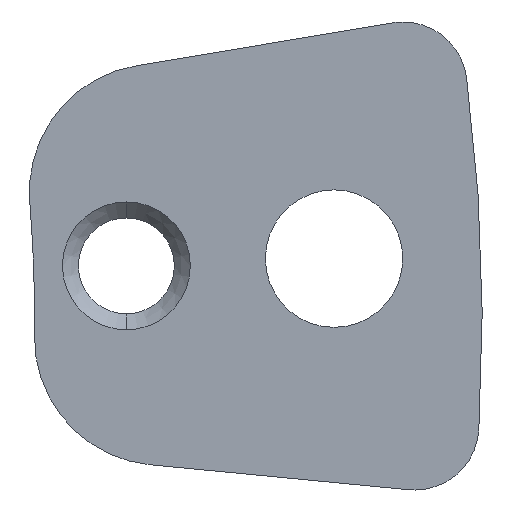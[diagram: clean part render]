
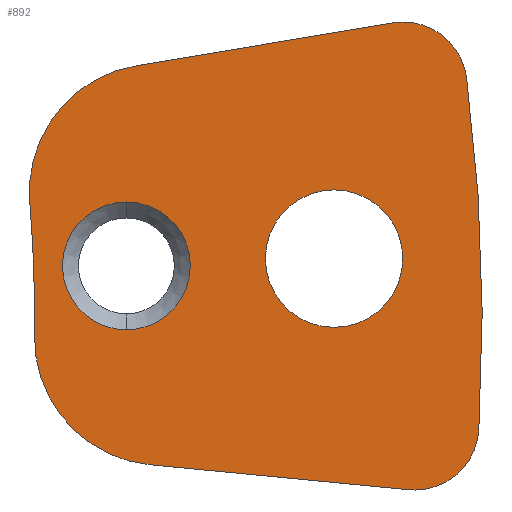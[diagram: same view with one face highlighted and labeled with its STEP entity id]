
A CAD part, left-side view. The second image highlights one B-rep face of the part: STEP entity #892.
In plain terms, the highlighted planar face has unit normal (-1, 0, 0).
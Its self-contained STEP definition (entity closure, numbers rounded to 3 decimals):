
#181=DIRECTION('',(0.,0.995,0.096));
#182=VECTOR('',#181,8.131);
#183=CARTESIAN_POINT('',(-63.,-55.707,-69.364));
#184=LINE('',#183,#182);
#185=CARTESIAN_POINT('',(-63.,-47.996,-64.603));
#186=DIRECTION('',(1.,0.,0.));
#187=DIRECTION('',(0.,0.096,-0.995));
#188=AXIS2_PLACEMENT_3D('',#185,#186,#187);
#190=CARTESIAN_POINT('',(-63.,0.,-64.));
#191=DIRECTION('',(-1.,0.,0.));
#192=DIRECTION('',(0.,-1.,-0.013));
#193=AXIS2_PLACEMENT_3D('',#190,#191,#192);
#195=CARTESIAN_POINT('',(-63.,-47.837,-60.05));
#196=DIRECTION('',(1.,0.,0.));
#197=DIRECTION('',(0.,0.997,-0.082));
#198=AXIS2_PLACEMENT_3D('',#195,#196,#197);
#200=DIRECTION('',(0.,-0.986,0.165));
#201=VECTOR('',#200,8.131);
#202=CARTESIAN_POINT('',(-63.,-47.177,-56.105));
#203=LINE('',#202,#201);
#204=CARTESIAN_POINT('',(-63.,-55.527,-56.736));
#205=DIRECTION('',(1.,0.,0.));
#206=DIRECTION('',(0.,0.165,0.986));
#207=AXIS2_PLACEMENT_3D('',#204,#205,#206);
#209=CARTESIAN_POINT('',(-63.,-55.527,-56.736));
#210=DIRECTION('',(1.,0.,0.));
#211=DIRECTION('',(0.,0.,1.));
#212=AXIS2_PLACEMENT_3D('',#209,#210,#211);
#214=CARTESIAN_POINT('',(-63.,0.,-64.));
#215=DIRECTION('',(1.,0.,0.));
#216=DIRECTION('',(0.,-0.992,0.13));
#217=AXIS2_PLACEMENT_3D('',#214,#215,#216);
#219=CARTESIAN_POINT('',(-63.,-55.898,-67.373));
#220=DIRECTION('',(1.,0.,0.));
#221=DIRECTION('',(0.,-0.998,-0.06));
#222=AXIS2_PLACEMENT_3D('',#219,#220,#221);
#224=CARTESIAN_POINT('',(-63.,-55.898,-67.373));
#225=DIRECTION('',(1.,0.,0.));
#226=DIRECTION('',(0.,0.,-1.));
#227=AXIS2_PLACEMENT_3D('',#224,#225,#226);
#229=CARTESIAN_POINT('',(-63.,-53.367,-62.136));
#230=DIRECTION('',(-1.,0.,0.));
#231=DIRECTION('',(0.,0.,1.));
#232=AXIS2_PLACEMENT_3D('',#229,#230,#231);
#234=CARTESIAN_POINT('',(-63.,-53.367,-62.136));
#235=DIRECTION('',(-1.,0.,0.));
#236=DIRECTION('',(0.,0.,-1.));
#237=AXIS2_PLACEMENT_3D('',#234,#235,#236);
#239=CARTESIAN_POINT('',(-63.,-46.871,-62.363));
#240=DIRECTION('',(1.,0.,0.));
#241=DIRECTION('',(0.,0.,1.));
#242=AXIS2_PLACEMENT_3D('',#239,#240,#241);
#244=CARTESIAN_POINT('',(-63.,-46.871,-62.363));
#245=DIRECTION('',(1.,0.,0.));
#246=DIRECTION('',(0.,0.,-1.));
#247=AXIS2_PLACEMENT_3D('',#244,#245,#246);
#589=CARTESIAN_POINT('',(-63.,-55.707,-69.364));
#590=CARTESIAN_POINT('',(-63.,-47.613,-68.585));
#591=VERTEX_POINT('',#589);
#592=VERTEX_POINT('',#590);
#593=CARTESIAN_POINT('',(-63.,-43.997,-64.553));
#594=VERTEX_POINT('',#593);
#595=CARTESIAN_POINT('',(-63.,-43.851,-60.38));
#596=VERTEX_POINT('',#595);
#597=CARTESIAN_POINT('',(-63.,-47.177,-56.105));
#598=VERTEX_POINT('',#597);
#599=CARTESIAN_POINT('',(-63.,-55.197,-54.763));
#600=VERTEX_POINT('',#599);
#601=CARTESIAN_POINT('',(-63.,-55.527,-54.736));
#602=VERTEX_POINT('',#601);
#603=CARTESIAN_POINT('',(-63.,-57.51,-56.476));
#604=VERTEX_POINT('',#603);
#605=CARTESIAN_POINT('',(-63.,-57.895,-67.494));
#606=VERTEX_POINT('',#605);
#607=CARTESIAN_POINT('',(-63.,-55.898,-69.373));
#608=VERTEX_POINT('',#607);
#609=CARTESIAN_POINT('',(-63.,-53.367,-59.986));
#610=CARTESIAN_POINT('',(-63.,-53.367,-64.286));
#611=VERTEX_POINT('',#609);
#612=VERTEX_POINT('',#610);
#721=CARTESIAN_POINT('',(-63.,-46.871,-60.363));
#722=CARTESIAN_POINT('',(-63.,-46.871,-64.363));
#723=VERTEX_POINT('',#721);
#724=VERTEX_POINT('',#722);
#854=CARTESIAN_POINT('',(-63.,-7.5,-64.));
#855=DIRECTION('',(-1.,0.,0.));
#856=DIRECTION('',(0.,1.,0.));
#857=AXIS2_PLACEMENT_3D('',#854,#855,#856);
#858=PLANE('',#857);
#860=ORIENTED_EDGE('',*,*,#859,.T.);
#862=ORIENTED_EDGE('',*,*,#861,.T.);
#863=ORIENTED_EDGE('',*,*,#844,.T.);
#865=ORIENTED_EDGE('',*,*,#864,.T.);
#867=ORIENTED_EDGE('',*,*,#866,.T.);
#869=ORIENTED_EDGE('',*,*,#868,.T.);
#871=ORIENTED_EDGE('',*,*,#870,.T.);
#873=ORIENTED_EDGE('',*,*,#872,.T.);
#875=ORIENTED_EDGE('',*,*,#874,.T.);
#877=ORIENTED_EDGE('',*,*,#876,.T.);
#878=EDGE_LOOP('',(#860,#862,#863,#865,#867,#869,#871,#873,#875,#877));
#879=FACE_OUTER_BOUND('',#878,.F.);
#881=ORIENTED_EDGE('',*,*,#880,.T.);
#883=ORIENTED_EDGE('',*,*,#882,.T.);
#884=EDGE_LOOP('',(#881,#883));
#885=FACE_BOUND('',#884,.F.);
#887=ORIENTED_EDGE('',*,*,#886,.F.);
#889=ORIENTED_EDGE('',*,*,#888,.F.);
#890=EDGE_LOOP('',(#887,#889));
#891=FACE_BOUND('',#890,.F.);
#892=ADVANCED_FACE('',(#879,#885,#891),#858,.T.);
#189=CIRCLE('',#188,4.);
#194=CIRCLE('',#193,44.);
#199=CIRCLE('',#198,4.);
#208=CIRCLE('',#207,2.);
#213=CIRCLE('',#212,2.);
#218=CIRCLE('',#217,58.);
#223=CIRCLE('',#222,2.);
#228=CIRCLE('',#227,2.);
#233=CIRCLE('',#232,2.15);
#238=CIRCLE('',#237,2.15);
#243=CIRCLE('',#242,2.);
#248=CIRCLE('',#247,2.);
#844=EDGE_CURVE('',#594,#596,#194,.T.);
#859=EDGE_CURVE('',#591,#592,#184,.T.);
#861=EDGE_CURVE('',#592,#594,#189,.T.);
#864=EDGE_CURVE('',#596,#598,#199,.T.);
#866=EDGE_CURVE('',#598,#600,#203,.T.);
#868=EDGE_CURVE('',#600,#602,#208,.T.);
#870=EDGE_CURVE('',#602,#604,#213,.T.);
#872=EDGE_CURVE('',#604,#606,#218,.T.);
#874=EDGE_CURVE('',#606,#608,#223,.T.);
#876=EDGE_CURVE('',#608,#591,#228,.T.);
#880=EDGE_CURVE('',#611,#612,#233,.T.);
#882=EDGE_CURVE('',#612,#611,#238,.T.);
#886=EDGE_CURVE('',#723,#724,#243,.T.);
#888=EDGE_CURVE('',#724,#723,#248,.T.);
